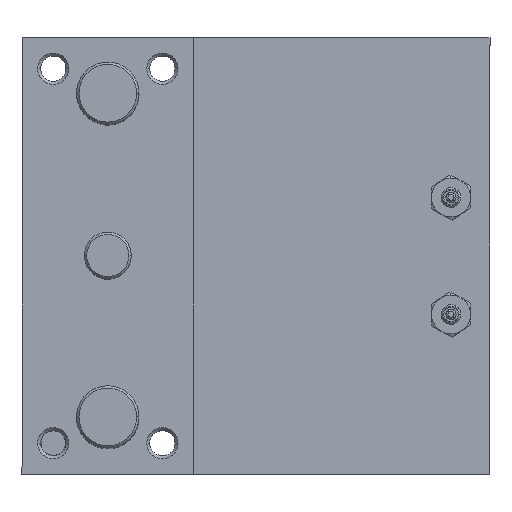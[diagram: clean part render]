
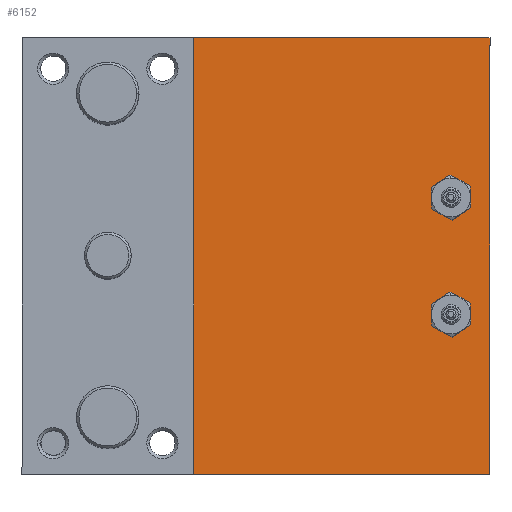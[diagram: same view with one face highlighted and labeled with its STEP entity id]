
A CAD part, top view. The second image highlights one B-rep face of the part: STEP entity #6152.
In plain terms, the highlighted planar face has unit normal (0, 0, 1) as drawn and (0, 1, 0) by its records, which use the part's own axes.
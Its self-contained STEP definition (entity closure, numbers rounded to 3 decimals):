
#94 = EDGE_CURVE ( 'NONE', #6011, #6496, #5884, .T. ) ;
#121 = VECTOR ( 'NONE', #3969, 1000. ) ;
#220 = CARTESIAN_POINT ( 'NONE',  ( -24., 0., -15.75 ) ) ;
#257 = LINE ( 'NONE', #3067, #6260 ) ;
#293 = VERTEX_POINT ( 'NONE', #1928 ) ;
#306 = EDGE_CURVE ( 'NONE', #8144, #3862, #5046, .T. ) ;
#325 = VERTEX_POINT ( 'NONE', #4312 ) ;
#350 = DIRECTION ( 'NONE',  ( 0., 0., -1. ) ) ;
#352 = PLANE ( 'NONE',  #1984 ) ;
#396 = LINE ( 'NONE', #6924, #5252 ) ;
#411 = DIRECTION ( 'NONE',  ( 0., 0., 1. ) ) ;
#516 = DIRECTION ( 'NONE',  ( 0., 0., 1. ) ) ;
#526 = EDGE_LOOP ( 'NONE', ( #7182, #1660 ) ) ;
#533 = DIRECTION ( 'NONE',  ( 0., 0., 1. ) ) ;
#536 = CARTESIAN_POINT ( 'NONE',  ( -24., 0., -6.25 ) ) ;
#543 = AXIS2_PLACEMENT_3D ( 'NONE', #4538, #3198, #533 ) ;
#716 = CARTESIAN_POINT ( 'NONE',  ( 24., 0., -1.75 ) ) ;
#810 = VERTEX_POINT ( 'NONE', #6624 ) ;
#868 = AXIS2_PLACEMENT_3D ( 'NONE', #928, #7445, #3528 ) ;
#923 = CARTESIAN_POINT ( 'NONE',  ( -7.5, 0., -56.025 ) ) ;
#925 = DIRECTION ( 'NONE',  ( 0., 0., 1. ) ) ;
#928 = CARTESIAN_POINT ( 'NONE',  ( -24., 0., -18. ) ) ;
#938 = ORIENTED_EDGE ( 'NONE', *, *, #306, .F. ) ;
#978 = FACE_BOUND ( 'NONE', #2201, .T. ) ;
#1012 = EDGE_LOOP ( 'NONE', ( #3516, #8250 ) ) ;
#1113 = ORIENTED_EDGE ( 'NONE', *, *, #8146, .F. ) ;
#1198 = DIRECTION ( 'NONE',  ( 0., 1., 0. ) ) ;
#1233 = DIRECTION ( 'NONE',  ( 0., 0., 1. ) ) ;
#1293 = CIRCLE ( 'NONE', #2570, 2.25 ) ;
#1460 = AXIS2_PLACEMENT_3D ( 'NONE', #8243, #4740, #6276 ) ;
#1622 = CARTESIAN_POINT ( 'NONE',  ( 28., 0., -60. ) ) ;
#1660 = ORIENTED_EDGE ( 'NONE', *, *, #94, .F. ) ;
#1756 = DIRECTION ( 'NONE',  ( 0., 1., 0. ) ) ;
#1782 = CARTESIAN_POINT ( 'NONE',  ( 24., 0., -18. ) ) ;
#1792 = DIRECTION ( 'NONE',  ( 0., 1., 0. ) ) ;
#1831 = AXIS2_PLACEMENT_3D ( 'NONE', #2111, #6752, #6697 ) ;
#1928 = CARTESIAN_POINT ( 'NONE',  ( -24., 0., -20.25 ) ) ;
#1984 = AXIS2_PLACEMENT_3D ( 'NONE', #8361, #8334, #6925 ) ;
#2111 = CARTESIAN_POINT ( 'NONE',  ( -7.5, 0., -55. ) ) ;
#2183 = CIRCLE ( 'NONE', #5584, 2.25 ) ;
#2201 = EDGE_LOOP ( 'NONE', ( #3685, #938 ) ) ;
#2220 = CARTESIAN_POINT ( 'NONE',  ( -24., 0., -4. ) ) ;
#2273 = ORIENTED_EDGE ( 'NONE', *, *, #3933, .F. ) ;
#2289 = VERTEX_POINT ( 'NONE', #923 ) ;
#2346 = EDGE_CURVE ( 'NONE', #6496, #6011, #1293, .T. ) ;
#2416 = FACE_BOUND ( 'NONE', #3692, .T. ) ;
#2498 = VECTOR ( 'NONE', #411, 1000. ) ;
#2570 = AXIS2_PLACEMENT_3D ( 'NONE', #1782, #6419, #7119 ) ;
#2624 = AXIS2_PLACEMENT_3D ( 'NONE', #7427, #8118, #8088 ) ;
#2651 = CARTESIAN_POINT ( 'NONE',  ( 24., 0., -6.25 ) ) ;
#2717 = VERTEX_POINT ( 'NONE', #2651 ) ;
#2724 = AXIS2_PLACEMENT_3D ( 'NONE', #5758, #1756, #5172 ) ;
#2731 = FACE_OUTER_BOUND ( 'NONE', #4788, .T. ) ;
#2839 = EDGE_CURVE ( 'NONE', #3862, #8144, #5809, .T. ) ;
#3067 = CARTESIAN_POINT ( 'NONE',  ( -28., 0., -60. ) ) ;
#3070 = VERTEX_POINT ( 'NONE', #5481 ) ;
#3118 = ORIENTED_EDGE ( 'NONE', *, *, #3238, .F. ) ;
#3143 = FACE_BOUND ( 'NONE', #526, .T. ) ;
#3181 = EDGE_LOOP ( 'NONE', ( #3118, #7437 ) ) ;
#3198 = DIRECTION ( 'NONE',  ( 0., 1., 0. ) ) ;
#3238 = EDGE_CURVE ( 'NONE', #7038, #2717, #4568, .T. ) ;
#3267 = CARTESIAN_POINT ( 'NONE',  ( -28., 0., 0. ) ) ;
#3274 = CARTESIAN_POINT ( 'NONE',  ( 28., 0., -60. ) ) ;
#3319 = CIRCLE ( 'NONE', #543, 2.25 ) ;
#3470 = CIRCLE ( 'NONE', #2624, 1.025 ) ;
#3516 = ORIENTED_EDGE ( 'NONE', *, *, #4898, .F. ) ;
#3528 = DIRECTION ( 'NONE',  ( 0., 0., 1. ) ) ;
#3568 = ORIENTED_EDGE ( 'NONE', *, *, #8046, .F. ) ;
#3685 = ORIENTED_EDGE ( 'NONE', *, *, #2839, .F. ) ;
#3692 = EDGE_LOOP ( 'NONE', ( #3746, #2273 ) ) ;
#3746 = ORIENTED_EDGE ( 'NONE', *, *, #7050, .F. ) ;
#3797 = DIRECTION ( 'NONE',  ( 0., 0., 1. ) ) ;
#3862 = VERTEX_POINT ( 'NONE', #4783 ) ;
#3933 = EDGE_CURVE ( 'NONE', #2289, #3070, #3470, .T. ) ;
#3963 = EDGE_LOOP ( 'NONE', ( #3568, #8378 ) ) ;
#3969 = DIRECTION ( 'NONE',  ( -1., 0., 0. ) ) ;
#4028 = VERTEX_POINT ( 'NONE', #220 ) ;
#4045 = LINE ( 'NONE', #3267, #121 ) ;
#4312 = CARTESIAN_POINT ( 'NONE',  ( 28., 0., 0. ) ) ;
#4460 = EDGE_CURVE ( 'NONE', #5636, #7651, #257, .T. ) ;
#4482 = ORIENTED_EDGE ( 'NONE', *, *, #6621, .F. ) ;
#4515 = EDGE_CURVE ( 'NONE', #2717, #7038, #5523, .T. ) ;
#4538 = CARTESIAN_POINT ( 'NONE',  ( -24., 0., -18. ) ) ;
#4568 = CIRCLE ( 'NONE', #6031, 2.25 ) ;
#4740 = DIRECTION ( 'NONE',  ( 0., 1., 0. ) ) ;
#4783 = CARTESIAN_POINT ( 'NONE',  ( 7.5, 0., -53.975 ) ) ;
#4788 = EDGE_LOOP ( 'NONE', ( #4482, #5718, #1113, #6659 ) ) ;
#4898 = EDGE_CURVE ( 'NONE', #5819, #8290, #2183, .T. ) ;
#5046 = CIRCLE ( 'NONE', #1460, 1.025 ) ;
#5122 = EDGE_CURVE ( 'NONE', #293, #4028, #3319, .T. ) ;
#5172 = DIRECTION ( 'NONE',  ( 0., 0., 1. ) ) ;
#5206 = CARTESIAN_POINT ( 'NONE',  ( 7.5, 0., -55. ) ) ;
#5252 = VECTOR ( 'NONE', #350, 1000. ) ;
#5468 = AXIS2_PLACEMENT_3D ( 'NONE', #5206, #1198, #7899 ) ;
#5481 = CARTESIAN_POINT ( 'NONE',  ( -7.5, 0., -53.975 ) ) ;
#5523 = CIRCLE ( 'NONE', #6245, 2.25 ) ;
#5553 = CARTESIAN_POINT ( 'NONE',  ( 24., 0., -20.25 ) ) ;
#5584 = AXIS2_PLACEMENT_3D ( 'NONE', #2220, #6864, #925 ) ;
#5586 = CARTESIAN_POINT ( 'NONE',  ( 7.5, 0., -56.025 ) ) ;
#5636 = VERTEX_POINT ( 'NONE', #7787 ) ;
#5718 = ORIENTED_EDGE ( 'NONE', *, *, #4460, .F. ) ;
#5758 = CARTESIAN_POINT ( 'NONE',  ( -24., 0., -4. ) ) ;
#5809 = CIRCLE ( 'NONE', #5468, 1.025 ) ;
#5819 = VERTEX_POINT ( 'NONE', #7252 ) ;
#5836 = FACE_BOUND ( 'NONE', #1012, .T. ) ;
#5884 = CIRCLE ( 'NONE', #7017, 2.25 ) ;
#6011 = VERTEX_POINT ( 'NONE', #5553 ) ;
#6031 = AXIS2_PLACEMENT_3D ( 'NONE', #7814, #7132, #516 ) ;
#6036 = LINE ( 'NONE', #1622, #2498 ) ;
#6152 = ADVANCED_FACE ( 'NONE', ( #2416, #978, #5836, #6367, #3143, #6881, #2731 ), #352, .F. ) ;
#6245 = AXIS2_PLACEMENT_3D ( 'NONE', #8446, #1792, #1233 ) ;
#6260 = VECTOR ( 'NONE', #7707, 1000. ) ;
#6276 = DIRECTION ( 'NONE',  ( 0., 0., 1. ) ) ;
#6367 = FACE_BOUND ( 'NONE', #3181, .T. ) ;
#6419 = DIRECTION ( 'NONE',  ( 0., 1., 0. ) ) ;
#6468 = CIRCLE ( 'NONE', #1831, 1.025 ) ;
#6496 = VERTEX_POINT ( 'NONE', #8119 ) ;
#6621 = EDGE_CURVE ( 'NONE', #7651, #325, #6036, .T. ) ;
#6624 = CARTESIAN_POINT ( 'NONE',  ( -28., 0., 0. ) ) ;
#6659 = ORIENTED_EDGE ( 'NONE', *, *, #6913, .F. ) ;
#6697 = DIRECTION ( 'NONE',  ( 0., 0., 1. ) ) ;
#6750 = EDGE_CURVE ( 'NONE', #8290, #5819, #7876, .T. ) ;
#6752 = DIRECTION ( 'NONE',  ( 0., 1., 0. ) ) ;
#6864 = DIRECTION ( 'NONE',  ( 0., 1., 0. ) ) ;
#6881 = FACE_BOUND ( 'NONE', #3963, .T. ) ;
#6913 = EDGE_CURVE ( 'NONE', #325, #810, #4045, .T. ) ;
#6924 = CARTESIAN_POINT ( 'NONE',  ( -28., 0., -60. ) ) ;
#6925 = DIRECTION ( 'NONE',  ( 0., 0., -1. ) ) ;
#7017 = AXIS2_PLACEMENT_3D ( 'NONE', #7104, #8369, #3797 ) ;
#7038 = VERTEX_POINT ( 'NONE', #716 ) ;
#7050 = EDGE_CURVE ( 'NONE', #3070, #2289, #6468, .T. ) ;
#7104 = CARTESIAN_POINT ( 'NONE',  ( 24., 0., -18. ) ) ;
#7119 = DIRECTION ( 'NONE',  ( 0., 0., 1. ) ) ;
#7132 = DIRECTION ( 'NONE',  ( 0., 1., 0. ) ) ;
#7182 = ORIENTED_EDGE ( 'NONE', *, *, #2346, .F. ) ;
#7252 = CARTESIAN_POINT ( 'NONE',  ( -24., 0., -1.75 ) ) ;
#7427 = CARTESIAN_POINT ( 'NONE',  ( -7.5, 0., -55. ) ) ;
#7437 = ORIENTED_EDGE ( 'NONE', *, *, #4515, .F. ) ;
#7445 = DIRECTION ( 'NONE',  ( 0., 1., 0. ) ) ;
#7651 = VERTEX_POINT ( 'NONE', #3274 ) ;
#7707 = DIRECTION ( 'NONE',  ( 1., 0., 0. ) ) ;
#7787 = CARTESIAN_POINT ( 'NONE',  ( -28., 0., -60. ) ) ;
#7814 = CARTESIAN_POINT ( 'NONE',  ( 24., 0., -4. ) ) ;
#7849 = CIRCLE ( 'NONE', #868, 2.25 ) ;
#7876 = CIRCLE ( 'NONE', #2724, 2.25 ) ;
#7899 = DIRECTION ( 'NONE',  ( 0., 0., 1. ) ) ;
#8046 = EDGE_CURVE ( 'NONE', #4028, #293, #7849, .T. ) ;
#8088 = DIRECTION ( 'NONE',  ( 0., 0., 1. ) ) ;
#8118 = DIRECTION ( 'NONE',  ( 0., 1., 0. ) ) ;
#8119 = CARTESIAN_POINT ( 'NONE',  ( 24., 0., -15.75 ) ) ;
#8144 = VERTEX_POINT ( 'NONE', #5586 ) ;
#8146 = EDGE_CURVE ( 'NONE', #810, #5636, #396, .T. ) ;
#8243 = CARTESIAN_POINT ( 'NONE',  ( 7.5, 0., -55. ) ) ;
#8250 = ORIENTED_EDGE ( 'NONE', *, *, #6750, .F. ) ;
#8290 = VERTEX_POINT ( 'NONE', #536 ) ;
#8334 = DIRECTION ( 'NONE',  ( 0., -1., 0. ) ) ;
#8361 = CARTESIAN_POINT ( 'NONE',  ( -28., 0., -60. ) ) ;
#8369 = DIRECTION ( 'NONE',  ( 0., 1., 0. ) ) ;
#8378 = ORIENTED_EDGE ( 'NONE', *, *, #5122, .F. ) ;
#8446 = CARTESIAN_POINT ( 'NONE',  ( 24., 0., -4. ) ) ;
